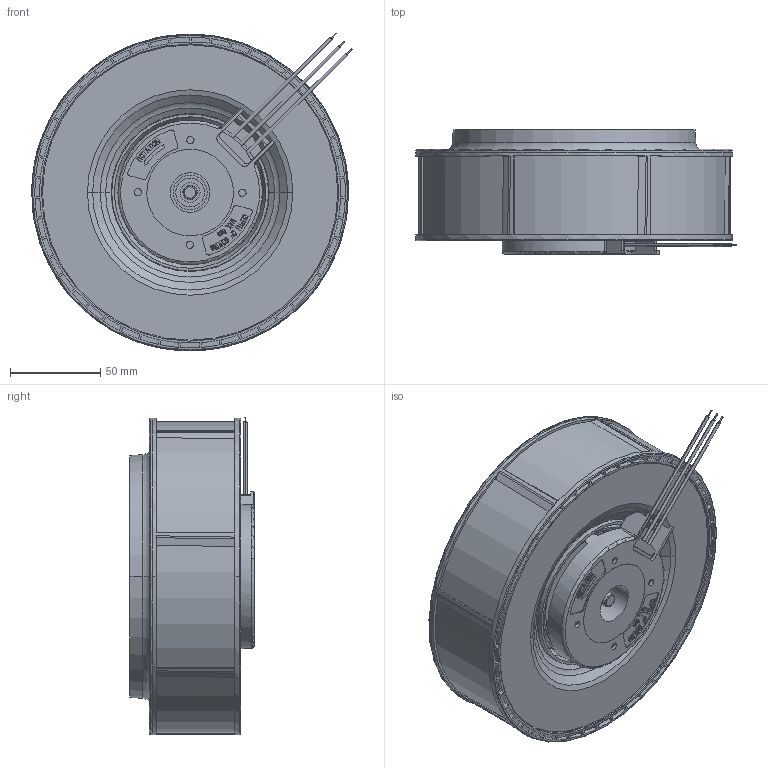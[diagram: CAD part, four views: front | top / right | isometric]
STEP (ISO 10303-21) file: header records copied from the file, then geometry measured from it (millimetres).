
FILE_DESCRIPTION((''),'2;1');
FILE_NAME('0005_88','2026-09-01T15:25:50',('pc'),(''),'CREO PARAMETRIC BY PTC INC, 2018050','CREO PARAMETRIC BY PTC INC, 2018050','');
FILE_SCHEMA(('CONFIG_CONTROL_DESIGN','GEOMETRIC_VALIDATION_PROPERTIES_MIM'));
Products named in the file (1): 0005_88
Bounding box: 177.77 x 68.91 x 176.26 mm (x, y, z)
Volume: 697440.7 mm3; surface area: 168111 mm2
Topology: 2 solids, 2 shells, 1930 faces, 5427 edges, 3662 vertices
Faces by surface type: plane 1393, cylinder 401, bspline 63, torus 31, cone 22, extrusion 14, sphere 4, revolution 2
Entity records: 71809 total; most frequent: CARTESIAN_POINT 18625, ORIENTED_EDGE 10846, DIRECTION 10098, EDGE_CURVE 5423, VECTOR 3812, LINE 3798, VERTEX_POINT 3662, AXIS2_PLACEMENT_3D 3142
